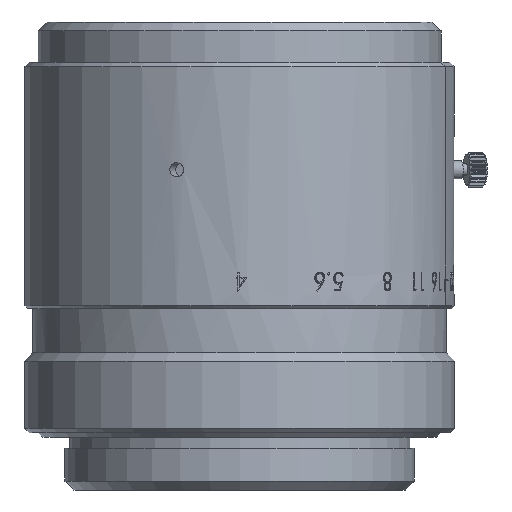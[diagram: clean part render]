
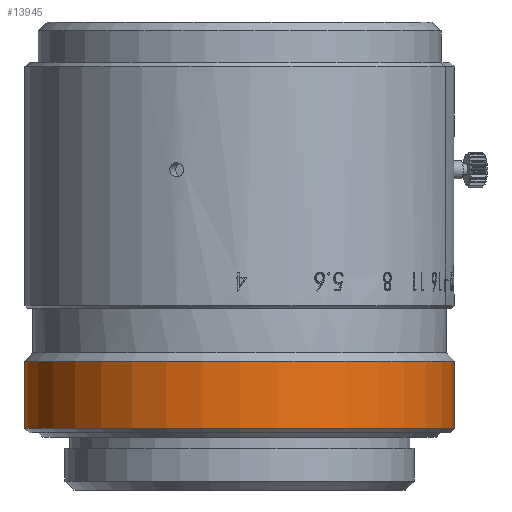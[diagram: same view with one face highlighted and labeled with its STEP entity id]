
A CAD part, front view. The second image highlights one B-rep face of the part: STEP entity #13945.
In plain terms, the highlighted cylindrical face has radius 24 mm (diameter 48 mm), a partial arc.
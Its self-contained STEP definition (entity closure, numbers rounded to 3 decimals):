
#920 = VERTEX_POINT ( 'NONE', #2638 ) ;
#2638 = CARTESIAN_POINT ( 'NONE',  ( 24., 0., -37.86 ) ) ;
#4832 = EDGE_LOOP ( 'NONE', ( #7234, #27909, #5157, #26658 ) ) ;
#4840 = CYLINDRICAL_SURFACE ( 'NONE', #22004, 24. ) ;
#5157 = ORIENTED_EDGE ( 'NONE', *, *, #5920, .T. ) ;
#5310 = CARTESIAN_POINT ( 'NONE',  ( 0., 0., -45.36 ) ) ;
#5920 = EDGE_CURVE ( 'NONE', #18676, #920, #22635, .T. ) ;
#6710 = CARTESIAN_POINT ( 'NONE',  ( -24., 0., -37.86 ) ) ;
#7234 = ORIENTED_EDGE ( 'NONE', *, *, #31951, .F. ) ;
#8343 = VECTOR ( 'NONE', #9704, 1000. ) ;
#9161 = EDGE_CURVE ( 'NONE', #24683, #920, #22512, .T. ) ;
#9704 = DIRECTION ( 'NONE',  ( 0., 0., 1. ) ) ;
#12177 = CARTESIAN_POINT ( 'NONE',  ( 0., 0., -37.86 ) ) ;
#13945 = ADVANCED_FACE ( 'NONE', ( #30253 ), #4840, .T. ) ;
#14990 = DIRECTION ( 'NONE',  ( 1., 0., 0. ) ) ;
#15455 = DIRECTION ( 'NONE',  ( 0., 0., 1. ) ) ;
#17820 = CARTESIAN_POINT ( 'NONE',  ( 24., 0., -0.15 ) ) ;
#18676 = VERTEX_POINT ( 'NONE', #25032 ) ;
#20318 = VECTOR ( 'NONE', #28095, 1000. ) ;
#20586 = CIRCLE ( 'NONE', #32827, 24. ) ;
#20840 = EDGE_CURVE ( 'NONE', #29304, #18676, #20586, .T. ) ;
#22004 = AXIS2_PLACEMENT_3D ( 'NONE', #28080, #25573, #14990 ) ;
#22512 = CIRCLE ( 'NONE', #28874, 24. ) ;
#22635 = LINE ( 'NONE', #17820, #20318 ) ;
#22821 = CARTESIAN_POINT ( 'NONE',  ( -24., 0., -0.15 ) ) ;
#24390 = CARTESIAN_POINT ( 'NONE',  ( -24., 0., -45.36 ) ) ;
#24683 = VERTEX_POINT ( 'NONE', #6710 ) ;
#25032 = CARTESIAN_POINT ( 'NONE',  ( 24., 0., -45.36 ) ) ;
#25115 = DIRECTION ( 'NONE',  ( 1., 0., 0. ) ) ;
#25259 = DIRECTION ( 'NONE',  ( 1., 0., 0. ) ) ;
#25573 = DIRECTION ( 'NONE',  ( 0., 0., 1. ) ) ;
#26658 = ORIENTED_EDGE ( 'NONE', *, *, #9161, .F. ) ;
#27909 = ORIENTED_EDGE ( 'NONE', *, *, #20840, .T. ) ;
#28080 = CARTESIAN_POINT ( 'NONE',  ( 0., 0., -0.15 ) ) ;
#28095 = DIRECTION ( 'NONE',  ( 0., 0., 1. ) ) ;
#28874 = AXIS2_PLACEMENT_3D ( 'NONE', #12177, #32786, #25115 ) ;
#29304 = VERTEX_POINT ( 'NONE', #24390 ) ;
#29812 = LINE ( 'NONE', #22821, #8343 ) ;
#30253 = FACE_OUTER_BOUND ( 'NONE', #4832, .T. ) ;
#31951 = EDGE_CURVE ( 'NONE', #29304, #24683, #29812, .T. ) ;
#32786 = DIRECTION ( 'NONE',  ( 0., 0., 1. ) ) ;
#32827 = AXIS2_PLACEMENT_3D ( 'NONE', #5310, #15455, #25259 ) ;
